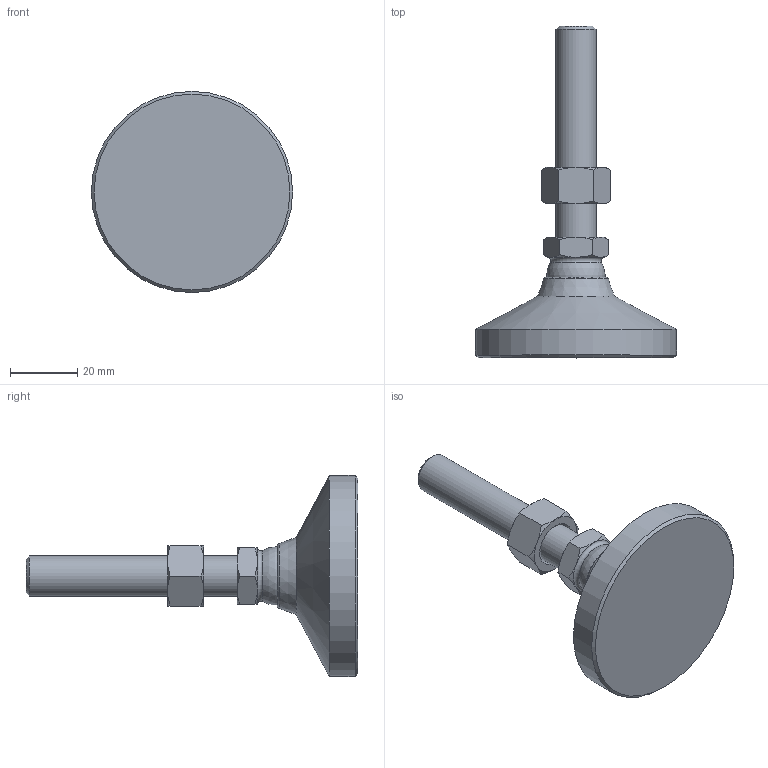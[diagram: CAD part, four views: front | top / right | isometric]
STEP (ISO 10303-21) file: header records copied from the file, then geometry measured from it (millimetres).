
FILE_DESCRIPTION( ( 'STEP AP214' ), ' ' );
FILE_NAME( 'O:/ganter_2015/teil_2/2_5/gn343_2/gn343_2_os/Levelling foot with threaded stud GN 343.2-60-M12-63-OS-(0).stp', '2015-10-26T09:08:12', ( '' ), ( '' ), ' ', 'PARTsolutions', ' ' );
FILE_SCHEMA( ( 'AUTOMOTIVE_DESIGN { 1 0 10303 214 1 1 1 1 }' ) );
Length unit declared in the file: millimetre
Products named in the file (4): Levelling foot with threaded stud GN 343.2-60-M12-63-OS-(0); _Levelling foot with threaded stud GN 343.2-60-M12-63-OS-(0)_foot; _Levelling foot with threaded stud GN 343.2-60-M12-63-OS-(0)_screw; _Stainless Steel-Levelling feet GN 343.2-60-M12-63-OS-(0)_nut
Assembly tree (3 placements, depth 2):
  Levelling foot with threaded stud GN 343.2-60-M12-63-OS-(0)
    _Levelling foot with threaded stud GN 343.2-60-M12-63-OS-(0)_foot
    _Levelling foot with threaded stud GN 343.2-60-M12-63-OS-(0)_screw
    _Stainless Steel-Levelling feet GN 343.2-60-M12-63-OS-(0)_nut
Bounding box: 60 x 99 x 60 mm (x, y, z)
Volume: 52166.9 mm3; surface area: 13096 mm2
Topology: 3 solids, 3 shells, 55 faces, 116 edges, 67 vertices
Faces by surface type: cone 30, plane 18, cylinder 3, torus 2, sphere 2
Full cylindrical faces by diameter (mm): 10.106 x1, 12 x1, 60 x1
Entity records: 2038 total; most frequent: CARTESIAN_POINT 495, DIRECTION 208, ORIENTED_EDGE 198, EDGE_CURVE 99, AXIS2_PLACEMENT_3D 98, EDGE_LOOP 70, VERTEX_POINT 65, FACE_OUTER_BOUND 60
